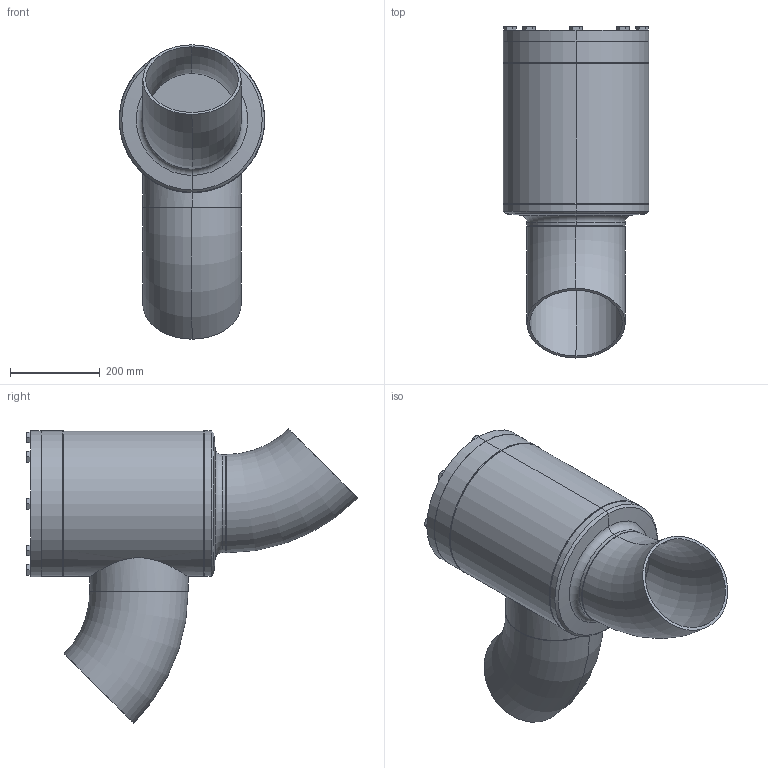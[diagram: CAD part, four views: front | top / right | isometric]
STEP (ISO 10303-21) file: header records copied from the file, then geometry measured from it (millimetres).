
FILE_DESCRIPTION (( 'STEP AP214' ), '1' );
FILE_NAME ('SS52300C23-DN200_R1_PS25.STEP', '2006-05-02T05:41:49', ( 'Herr Grams' ), ( 'AWP GmbH' ), 'SwSTEP 2.0', 'SolidWorks 2002296', '' );
FILE_SCHEMA (( 'AUTOMOTIVE_DESIGN' ));
Length unit declared in the file: millimetre
Products named in the file (14): SS52300C23-DN200_R1_PS25; SS52300B23_Deck+Schr-DN200_Standard; Deckel52300B23-DN200_Standard; Sechskantschraube-DIN933_M16x 45; Gehäuse-kpl16300-DN200_R1_Standard; Kopfstück16300-DN200_Standard; Gehäuse16300-DN200_Standard; Boden16300-DN200_Standard; Rohrstutzen-A16300-DN200_R1_Standard; Rohrbogen 45°_Rohrbogen-DN200-45°; bead-DN200-4_Standard; bead-DN200-2_Standard; bead-DN200-1_Standard; bead-DN200-3_Standard
Assembly tree (21 placements, depth 3):
  SS52300C23-DN200_R1_PS25
    Gehäuse-kpl16300-DN200_R1_Standard
      Rohrbogen 45°_Rohrbogen-DN200-45°  x2
      bead-DN200-3_Standard
      bead-DN200-1_Standard
      Gehäuse16300-DN200_Standard
      bead-DN200-2_Standard
      Boden16300-DN200_Standard
      bead-DN200-4_Standard
      Rohrstutzen-A16300-DN200_R1_Standard
      Kopfstück16300-DN200_Standard
    SS52300B23_Deck+Schr-DN200_Standard
      Sechskantschraube-DIN933_M16x 45  x8
      Deckel52300B23-DN200_Standard
Bounding box: 325 x 739.63 x 655.93 mm (x, y, z)
Volume: 11228794 mm3; surface area: 2069575.3 mm2
Topology: 19 solids, 19 shells, 305 faces, 648 edges, 390 vertices
Faces by surface type: cone 122, plane 96, cylinder 61, bspline 16, torus 10
Entity records: 6854 total; most frequent: CARTESIAN_POINT 3374, DIRECTION 578, ORIENTED_EDGE 544, EDGE_CURVE 272, AXIS2_PLACEMENT_3D 256, VERTEX_POINT 172, EDGE_LOOP 162, FACE_OUTER_BOUND 124
